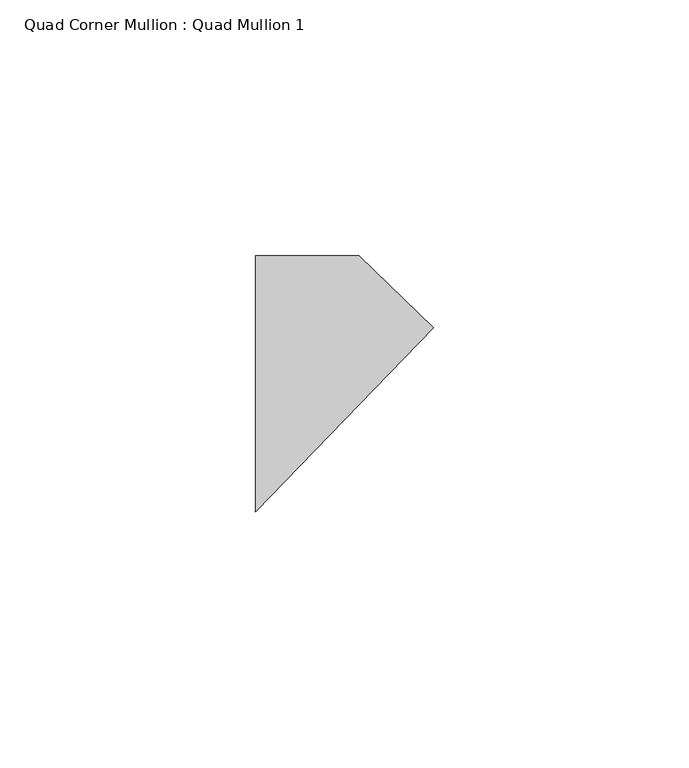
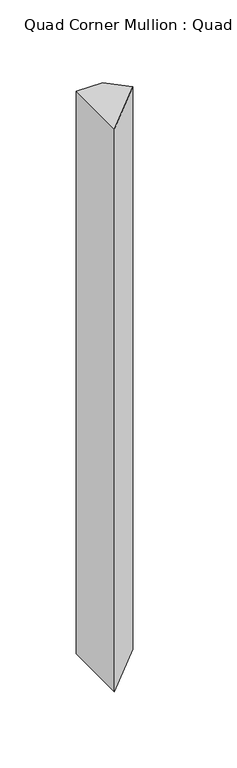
"""IFC4 building model written with IfcOpenShell, lengths in millimetres: member geometry, Quad Corner Mullion : Quad Mullion 1."""

from ifc_helpers import new_model, si_unit, frame, origin, place, context, project, spatial, polyline, outline, extrude, source, transform, mapped, element, save


def quad_corner_mullion_quad_mullion_1_d59aa48a(model_context):
    return source(origin(), model_context, "Body", "SweptSolid", [
        extrude(outline(polyline([(24.6322629, 10.96699), (-10.1006556, -25.0), (-10.1006556, 25.0), (10.1006556, 25.0), (24.6322629, 10.96699)])), frame((0.0, 0.0, -450.0), z_axis=(0.0, 0.0, 1.0), x_axis=(1.0, 0.0, 0.0)), (0.0, 0.0, 1.0), 450.0),
    ])


if __name__ == "__main__":
    model = new_model("IFC4")
    model_context = context("Model", 3, world=origin())
    ifc_project = project(units=[si_unit("LENGTHUNIT", "METRE", prefix="MILLI")], contexts=[model_context])
    site = spatial("IfcSite", under=ifc_project)
    building = spatial("IfcBuilding", under=site)
    placement = place(None, origin())
    quad_corner_mullion_quad_mullion_1_shape = quad_corner_mullion_quad_mullion_1_d59aa48a(model_context)
    element("IfcMember", 1, ObjectType="Quad Corner Mullion : Quad Mullion 1", at=placement, inside=building, context=model_context, shape_type="MappedRepresentation", body=[
        mapped(quad_corner_mullion_quad_mullion_1_shape, transform((0.0, 0.0, 0.0), x_axis=(1.0, 0.0, 0.0), y_axis=(0.0, 1.0, 0.0), z_axis=(0.0, 0.0, 1.0))),
    ])
    save(model, "model.ifc")
